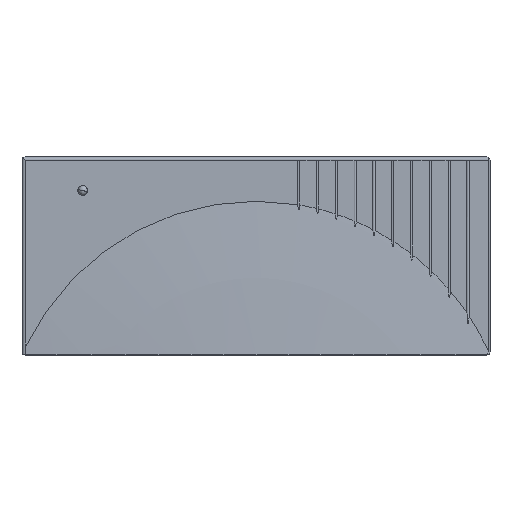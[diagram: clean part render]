
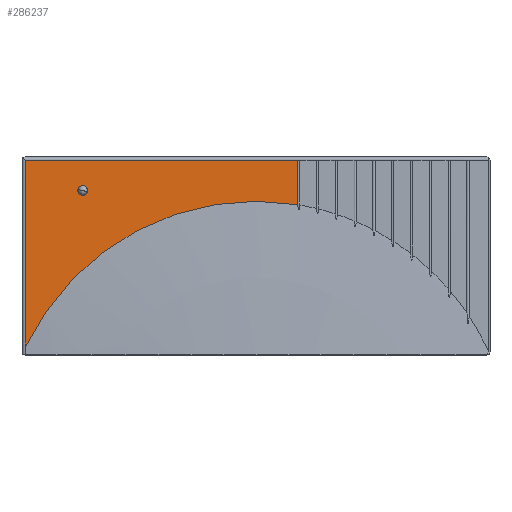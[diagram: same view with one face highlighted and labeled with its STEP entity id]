
A CAD part, top view. The second image highlights one B-rep face of the part: STEP entity #286237.
In plain terms, the highlighted planar face has unit normal (0, 0, 1).
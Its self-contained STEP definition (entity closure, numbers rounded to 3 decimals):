
#265894 = CYLINDRICAL_SURFACE('',#265895,1.55);
#265895 = AXIS2_PLACEMENT_3D('',#265896,#265897,#265898);
#265896 = CARTESIAN_POINT('',(19.35,52.4,0.));
#265897 = DIRECTION('',(0.,0.,1.));
#265898 = DIRECTION('',(1.,0.,0.));
#274294 = EDGE_CURVE('',#274295,#274295,#274297,.T.);
#274295 = VERTEX_POINT('',#274296);
#274296 = CARTESIAN_POINT('',(20.9,52.4,21.));
#274297 = SURFACE_CURVE('',#274298,(#274303,#274310),.PCURVE_S1.);
#274298 = CIRCLE('',#274299,1.55);
#274299 = AXIS2_PLACEMENT_3D('',#274300,#274301,#274302);
#274300 = CARTESIAN_POINT('',(19.35,52.4,21.));
#274301 = DIRECTION('',(0.,0.,1.));
#274302 = DIRECTION('',(1.,0.,0.));
#274303 = PCURVE('',#265894,#274304);
#274304 = DEFINITIONAL_REPRESENTATION('',(#274305),#274309);
#274305 = LINE('',#274306,#274307);
#274306 = CARTESIAN_POINT('',(0.,21.));
#274307 = VECTOR('',#274308,1.);
#274308 = DIRECTION('',(1.,0.));
#274309 = ( GEOMETRIC_REPRESENTATION_CONTEXT(2) 
PARAMETRIC_REPRESENTATION_CONTEXT() REPRESENTATION_CONTEXT('2D SPACE',''
  ) );
#274310 = PCURVE('',#274311,#274316);
#274311 = PLANE('',#274312);
#274312 = AXIS2_PLACEMENT_3D('',#274313,#274314,#274315);
#274313 = CARTESIAN_POINT('',(0.,0.,21.));
#274314 = DIRECTION('',(0.,0.,1.));
#274315 = DIRECTION('',(1.,0.,0.));
#274316 = DEFINITIONAL_REPRESENTATION('',(#274317),#274321);
#274317 = CIRCLE('',#274318,1.55);
#274318 = AXIS2_PLACEMENT_2D('',#274319,#274320);
#274319 = CARTESIAN_POINT('',(19.35,52.4));
#274320 = DIRECTION('',(1.,0.));
#274321 = ( GEOMETRIC_REPRESENTATION_CONTEXT(2) 
PARAMETRIC_REPRESENTATION_CONTEXT() REPRESENTATION_CONTEXT('2D SPACE',''
  ) );
#278563 = SPHERICAL_SURFACE('',#278564,800.);
#278564 = AXIS2_PLACEMENT_3D('',#278565,#278566,#278567);
#278565 = CARTESIAN_POINT('',(74.6,-32.3,-774.86));
#278566 = DIRECTION('',(0.,0.,1.));
#278567 = DIRECTION('',(1.,0.,0.));
#286237 = ADVANCED_FACE('',(#286238,#286368),#274311,.T.);
#286238 = FACE_BOUND('',#286239,.T.);
#286239 = EDGE_LOOP('',(#286240,#286266,#286292,#286342));
#286240 = ORIENTED_EDGE('',*,*,#286241,.F.);
#286241 = EDGE_CURVE('',#286242,#286244,#286246,.T.);
#286242 = VERTEX_POINT('',#286243);
#286243 = CARTESIAN_POINT('',(87.843,47.897,21.));
#286244 = VERTEX_POINT('',#286245);
#286245 = CARTESIAN_POINT('',(1.,2.195,21.));
#286246 = SURFACE_CURVE('',#286247,(#286252,#286259),.PCURVE_S1.);
#286247 = CIRCLE('',#286248,81.283);
#286248 = AXIS2_PLACEMENT_3D('',#286249,#286250,#286251);
#286249 = CARTESIAN_POINT('',(74.6,-32.3,21.));
#286250 = DIRECTION('',(0.,0.,1.));
#286251 = DIRECTION('',(1.,0.,0.));
#286252 = PCURVE('',#274311,#286253);
#286253 = DEFINITIONAL_REPRESENTATION('',(#286254),#286258);
#286254 = CIRCLE('',#286255,81.283);
#286255 = AXIS2_PLACEMENT_2D('',#286256,#286257);
#286256 = CARTESIAN_POINT('',(74.6,-32.3));
#286257 = DIRECTION('',(1.,0.));
#286258 = ( GEOMETRIC_REPRESENTATION_CONTEXT(2) 
PARAMETRIC_REPRESENTATION_CONTEXT() REPRESENTATION_CONTEXT('2D SPACE',''
  ) );
#286259 = PCURVE('',#278563,#286260);
#286260 = DEFINITIONAL_REPRESENTATION('',(#286261),#286265);
#286261 = LINE('',#286262,#286263);
#286262 = CARTESIAN_POINT('',(0.,1.469));
#286263 = VECTOR('',#286264,1.);
#286264 = DIRECTION('',(1.,0.));
#286265 = ( GEOMETRIC_REPRESENTATION_CONTEXT(2) 
PARAMETRIC_REPRESENTATION_CONTEXT() REPRESENTATION_CONTEXT('2D SPACE',''
  ) );
#286266 = ORIENTED_EDGE('',*,*,#286267,.F.);
#286267 = EDGE_CURVE('',#286268,#286242,#286270,.T.);
#286268 = VERTEX_POINT('',#286269);
#286269 = CARTESIAN_POINT('',(87.843,62.1,21.));
#286270 = SURFACE_CURVE('',#286271,(#286275,#286281),.PCURVE_S1.);
#286271 = LINE('',#286272,#286273);
#286272 = CARTESIAN_POINT('',(87.843,63.1,21.));
#286273 = VECTOR('',#286274,1.);
#286274 = DIRECTION('',(0.,-1.,0.));
#286275 = PCURVE('',#274311,#286276);
#286276 = DEFINITIONAL_REPRESENTATION('',(#286277),#286280);
#286277 = B_SPLINE_CURVE_WITH_KNOTS('',1,(#286278,#286279),
  .UNSPECIFIED.,.F.,.F.,(2,2),(0.,61.4),
  .PIECEWISE_BEZIER_KNOTS.);
#286278 = CARTESIAN_POINT('',(87.843,63.1));
#286279 = CARTESIAN_POINT('',(87.843,1.7));
#286280 = ( GEOMETRIC_REPRESENTATION_CONTEXT(2) 
PARAMETRIC_REPRESENTATION_CONTEXT() REPRESENTATION_CONTEXT('2D SPACE',''
  ) );
#286281 = PCURVE('',#286282,#286287);
#286282 = CYLINDRICAL_SURFACE('',#286283,0.5);
#286283 = AXIS2_PLACEMENT_3D('',#286284,#286285,#286286);
#286284 = CARTESIAN_POINT('',(88.2,63.1,20.65));
#286285 = DIRECTION('',(0.,-1.,0.));
#286286 = DIRECTION('',(1.,0.,0.));
#286287 = DEFINITIONAL_REPRESENTATION('',(#286288),#286291);
#286288 = B_SPLINE_CURVE_WITH_KNOTS('',1,(#286289,#286290),
  .UNSPECIFIED.,.F.,.F.,(2,2),(0.,61.4),
  .PIECEWISE_BEZIER_KNOTS.);
#286289 = CARTESIAN_POINT('',(2.366,0.));
#286290 = CARTESIAN_POINT('',(2.366,61.4));
#286291 = ( GEOMETRIC_REPRESENTATION_CONTEXT(2) 
PARAMETRIC_REPRESENTATION_CONTEXT() REPRESENTATION_CONTEXT('2D SPACE',''
  ) );
#286292 = ORIENTED_EDGE('',*,*,#286293,.T.);
#286293 = EDGE_CURVE('',#286268,#286294,#286296,.T.);
#286294 = VERTEX_POINT('',#286295);
#286295 = CARTESIAN_POINT('',(1.,62.1,21.));
#286296 = SURFACE_CURVE('',#286297,(#286301,#286308),.PCURVE_S1.);
#286297 = LINE('',#286298,#286299);
#286298 = CARTESIAN_POINT('',(150.,62.1,21.));
#286299 = VECTOR('',#286300,1.);
#286300 = DIRECTION('',(-1.,0.,0.));
#286301 = PCURVE('',#274311,#286302);
#286302 = DEFINITIONAL_REPRESENTATION('',(#286303),#286307);
#286303 = LINE('',#286304,#286305);
#286304 = CARTESIAN_POINT('',(150.,62.1));
#286305 = VECTOR('',#286306,1.);
#286306 = DIRECTION('',(-1.,0.));
#286307 = ( GEOMETRIC_REPRESENTATION_CONTEXT(2) 
PARAMETRIC_REPRESENTATION_CONTEXT() REPRESENTATION_CONTEXT('2D SPACE',''
  ) );
#286308 = PCURVE('',#286309,#286314);
#286309 = CYLINDRICAL_SURFACE('',#286310,1.);
#286310 = AXIS2_PLACEMENT_3D('',#286311,#286312,#286313);
#286311 = CARTESIAN_POINT('',(150.,62.1,20.));
#286312 = DIRECTION('',(-1.,0.,0.));
#286313 = DIRECTION('',(0.,0.,1.));
#286314 = DEFINITIONAL_REPRESENTATION('',(#286315),#286341);
#286315 = B_SPLINE_CURVE_WITH_KNOTS('',3,(#286316,#286317,#286318,
    #286319,#286320,#286321,#286322,#286323,#286324,#286325,#286326,
    #286327,#286328,#286329,#286330,#286331,#286332,#286333,#286334,
    #286335,#286336,#286337,#286338,#286339,#286340),.UNSPECIFIED.,.F.,
  .F.,(4,1,1,1,1,1,1,1,1,1,1,1,1,1,1,1,1,1,1,1,1,1,4),(62.157,
    66.104,70.052,73.999,77.947,
    81.894,85.842,89.789,93.736,
    97.684,101.631,105.579,109.526,
    113.473,117.421,121.368,125.316,
    129.263,133.21,137.158,141.105,
    145.053,149.),.QUASI_UNIFORM_KNOTS.);
#286316 = CARTESIAN_POINT('',(0.,62.157));
#286317 = CARTESIAN_POINT('',(0.,63.473));
#286318 = CARTESIAN_POINT('',(0.,66.104));
#286319 = CARTESIAN_POINT('',(0.,70.052));
#286320 = CARTESIAN_POINT('',(0.,73.999));
#286321 = CARTESIAN_POINT('',(0.,77.947));
#286322 = CARTESIAN_POINT('',(0.,81.894));
#286323 = CARTESIAN_POINT('',(0.,85.842));
#286324 = CARTESIAN_POINT('',(0.,89.789));
#286325 = CARTESIAN_POINT('',(0.,93.736));
#286326 = CARTESIAN_POINT('',(0.,97.684));
#286327 = CARTESIAN_POINT('',(0.,101.631));
#286328 = CARTESIAN_POINT('',(0.,105.579));
#286329 = CARTESIAN_POINT('',(0.,109.526));
#286330 = CARTESIAN_POINT('',(0.,113.473));
#286331 = CARTESIAN_POINT('',(0.,117.421));
#286332 = CARTESIAN_POINT('',(0.,121.368));
#286333 = CARTESIAN_POINT('',(0.,125.316));
#286334 = CARTESIAN_POINT('',(0.,129.263));
#286335 = CARTESIAN_POINT('',(0.,133.21));
#286336 = CARTESIAN_POINT('',(0.,137.158));
#286337 = CARTESIAN_POINT('',(0.,141.105));
#286338 = CARTESIAN_POINT('',(0.,145.053));
#286339 = CARTESIAN_POINT('',(0.,147.684));
#286340 = CARTESIAN_POINT('',(0.,149.));
#286341 = ( GEOMETRIC_REPRESENTATION_CONTEXT(2) 
PARAMETRIC_REPRESENTATION_CONTEXT() REPRESENTATION_CONTEXT('2D SPACE',''
  ) );
#286342 = ORIENTED_EDGE('',*,*,#286343,.F.);
#286343 = EDGE_CURVE('',#286244,#286294,#286344,.T.);
#286344 = SURFACE_CURVE('',#286345,(#286349,#286356),.PCURVE_S1.);
#286345 = LINE('',#286346,#286347);
#286346 = CARTESIAN_POINT('',(1.,-5.,21.));
#286347 = VECTOR('',#286348,1.);
#286348 = DIRECTION('',(0.,1.,0.));
#286349 = PCURVE('',#274311,#286350);
#286350 = DEFINITIONAL_REPRESENTATION('',(#286351),#286355);
#286351 = LINE('',#286352,#286353);
#286352 = CARTESIAN_POINT('',(1.,-5.));
#286353 = VECTOR('',#286354,1.);
#286354 = DIRECTION('',(0.,1.));
#286355 = ( GEOMETRIC_REPRESENTATION_CONTEXT(2) 
PARAMETRIC_REPRESENTATION_CONTEXT() REPRESENTATION_CONTEXT('2D SPACE',''
  ) );
#286356 = PCURVE('',#286357,#286362);
#286357 = CYLINDRICAL_SURFACE('',#286358,1.);
#286358 = AXIS2_PLACEMENT_3D('',#286359,#286360,#286361);
#286359 = CARTESIAN_POINT('',(1.,0.,20.));
#286360 = DIRECTION('',(0.,1.,0.));
#286361 = DIRECTION('',(-1.,0.,0.));
#286362 = DEFINITIONAL_REPRESENTATION('',(#286363),#286367);
#286363 = LINE('',#286364,#286365);
#286364 = CARTESIAN_POINT('',(1.571,-5.));
#286365 = VECTOR('',#286366,1.);
#286366 = DIRECTION('',(0.,1.));
#286367 = ( GEOMETRIC_REPRESENTATION_CONTEXT(2) 
PARAMETRIC_REPRESENTATION_CONTEXT() REPRESENTATION_CONTEXT('2D SPACE',''
  ) );
#286368 = FACE_BOUND('',#286369,.T.);
#286369 = EDGE_LOOP('',(#286370));
#286370 = ORIENTED_EDGE('',*,*,#274294,.F.);
